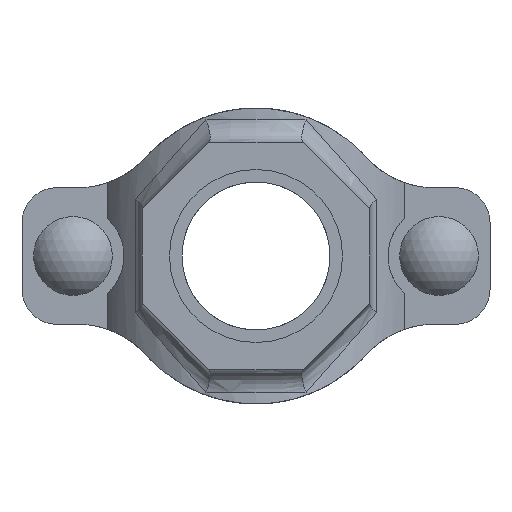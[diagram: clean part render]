
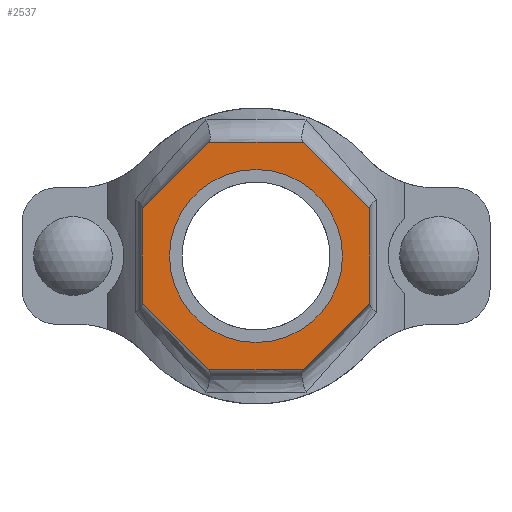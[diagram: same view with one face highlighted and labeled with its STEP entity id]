
A CAD part, front view. The second image highlights one B-rep face of the part: STEP entity #2537.
In plain terms, the highlighted planar face has unit normal (0, -1, 0) as drawn and (0, 1, 0) by its records, which use the part's own axes.
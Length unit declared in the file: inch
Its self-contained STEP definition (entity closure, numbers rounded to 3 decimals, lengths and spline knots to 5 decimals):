
#186=FACE_BOUND('',#457,.T.);
#305=FACE_OUTER_BOUND('',#456,.T.);
#456=EDGE_LOOP('',(#2126,#2127,#2128,#2129,#2130,#2131,#2132,#2133));
#457=EDGE_LOOP('',(#2134));
#594=LINE('',#4625,#780);
#597=LINE('',#4630,#783);
#599=LINE('',#4634,#785);
#601=LINE('',#4638,#787);
#637=LINE('',#5051,#823);
#639=LINE('',#5055,#825);
#641=LINE('',#5059,#827);
#643=LINE('',#5062,#829);
#780=VECTOR('',#3278,0.3937);
#783=VECTOR('',#3283,0.3937);
#785=VECTOR('',#3287,0.3937);
#787=VECTOR('',#3291,0.3937);
#823=VECTOR('',#3415,0.3937);
#825=VECTOR('',#3419,0.3937);
#827=VECTOR('',#3423,0.3937);
#829=VECTOR('',#3427,0.3937);
#915=CIRCLE('',#2798,0.95);
#1097=VERTEX_POINT('',#4622);
#1098=VERTEX_POINT('',#4624);
#1099=VERTEX_POINT('',#4628);
#1100=VERTEX_POINT('',#4632);
#1101=VERTEX_POINT('',#4636);
#1132=VERTEX_POINT('',#4900);
#1156=VERTEX_POINT('',#5050);
#1157=VERTEX_POINT('',#5054);
#1158=VERTEX_POINT('',#5058);
#1408=EDGE_CURVE('',#1098,#1097,#594,.T.);
#1411=EDGE_CURVE('',#1097,#1099,#597,.T.);
#1413=EDGE_CURVE('',#1099,#1100,#599,.T.);
#1415=EDGE_CURVE('',#1100,#1101,#601,.T.);
#1457=EDGE_CURVE('',#1132,#1132,#915,.T.);
#1489=EDGE_CURVE('',#1156,#1098,#637,.T.);
#1491=EDGE_CURVE('',#1157,#1156,#639,.T.);
#1493=EDGE_CURVE('',#1158,#1157,#641,.T.);
#1495=EDGE_CURVE('',#1101,#1158,#643,.T.);
#2126=ORIENTED_EDGE('',*,*,#1495,.T.);
#2127=ORIENTED_EDGE('',*,*,#1493,.T.);
#2128=ORIENTED_EDGE('',*,*,#1491,.T.);
#2129=ORIENTED_EDGE('',*,*,#1489,.T.);
#2130=ORIENTED_EDGE('',*,*,#1408,.T.);
#2131=ORIENTED_EDGE('',*,*,#1411,.T.);
#2132=ORIENTED_EDGE('',*,*,#1413,.T.);
#2133=ORIENTED_EDGE('',*,*,#1415,.T.);
#2134=ORIENTED_EDGE('',*,*,#1457,.T.);
#2278=PLANE('',#2821);
#2537=ADVANCED_FACE('',(#305,#186),#2278,.T.);
#2798=AXIS2_PLACEMENT_3D('',#4901,#3361,#3362);
#2821=AXIS2_PLACEMENT_3D('',#5063,#3428,#3429);
#3278=DIRECTION('',(0.,0.,1.));
#3283=DIRECTION('',(0.707,0.,0.707));
#3287=DIRECTION('',(1.,0.,0.));
#3291=DIRECTION('',(0.707,0.,-0.707));
#3361=DIRECTION('center_axis',(0.,-1.,0.));
#3362=DIRECTION('ref_axis',(-1.,0.,0.));
#3415=DIRECTION('',(-0.707,0.,0.707));
#3419=DIRECTION('',(-1.,0.,0.));
#3423=DIRECTION('',(-0.707,0.,-0.707));
#3427=DIRECTION('',(0.,0.,-1.));
#3428=DIRECTION('center_axis',(0.,1.,0.));
#3429=DIRECTION('ref_axis',(0.,0.,1.));
#4622=CARTESIAN_POINT('',(-1.25,3.,0.51777));
#4624=CARTESIAN_POINT('',(-1.25,3.,-0.51777));
#4625=CARTESIAN_POINT('',(-1.25,3.,0.51777));
#4628=CARTESIAN_POINT('',(-0.51777,3.,1.25));
#4630=CARTESIAN_POINT('',(-0.51777,3.,1.25));
#4632=CARTESIAN_POINT('',(0.51777,3.,1.25));
#4634=CARTESIAN_POINT('',(0.51777,3.,1.25));
#4636=CARTESIAN_POINT('',(1.25,3.,0.51777));
#4638=CARTESIAN_POINT('',(1.25,3.,0.51777));
#4900=CARTESIAN_POINT('',(0.95,3.,0.));
#4901=CARTESIAN_POINT('Origin',(0.,3.,0.));
#5050=CARTESIAN_POINT('',(-0.51777,3.,-1.25));
#5051=CARTESIAN_POINT('',(-1.25,3.,-0.51777));
#5054=CARTESIAN_POINT('',(0.51777,3.,-1.25));
#5055=CARTESIAN_POINT('',(-0.51777,3.,-1.25));
#5058=CARTESIAN_POINT('',(1.25,3.,-0.51777));
#5059=CARTESIAN_POINT('',(0.51777,3.,-1.25));
#5062=CARTESIAN_POINT('',(1.25,3.,-0.51777));
#5063=CARTESIAN_POINT('Origin',(0.,3.,0.));
